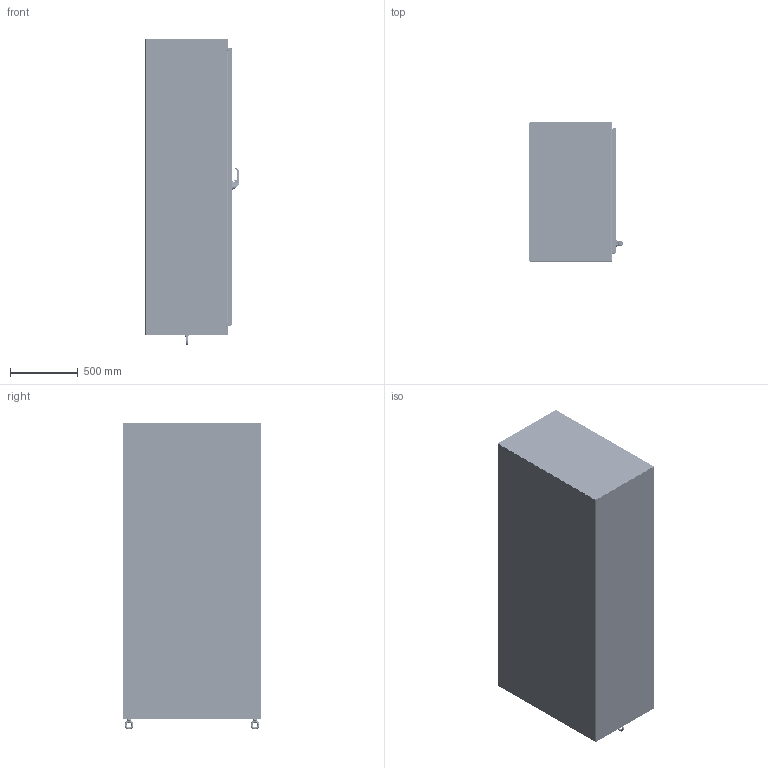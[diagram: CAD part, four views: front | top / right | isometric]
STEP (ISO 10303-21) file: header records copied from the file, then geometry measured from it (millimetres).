
FILE_DESCRIPTION((''),'2;1');
FILE_NAME('MODEL-461_ASM','2026-03-12T10:42:57',('joshi'),('SAGINAW CONTROL & ENGINEERING'),'CREO PARAMETRIC BY PTC INC, 2021284','CREO PARAMETRIC BY PTC INC, 2021284','');
FILE_SCHEMA(('AUTOMOTIVE_DESIGN { 1 0 10303 214 1 1 1 1 }'));
Length unit declared in the file: inch
Products named in the file (67): MODEL-461-L-SD; MODEL-461-TP; MODEL-461-R-SD; MODEL-461-BTM; MODEL-461-DR; 100837; 111267; 100882; 100953_SCREW_MTG; 100953_PADLOCK_CATCH; 100953_SCREW_LARGE; 100953_INSERT_SHAFT; 100953_INSERT_PCH; 100953_GASKET; 100953_O-RING; 100953_BASE; 100953_SPRING; 100953_HANDLE; 100953_CAM_SHAFT; 100953_HANDLE_ASM; 100953_CAM_ADAPTER; 100953_EARTH_NUT; 100953_FLANGE_NUT; 100953_CAM_NUT; 100953_CP_INSERT; 100953_SPRING_CAM; 100953_TORSION_SPRING; 100953_SCREW_INSERT; 100953_ASM; 102237; 100030; 102237_ASM; MODEL-461-ROD-UPR; 128146; 128145; 128144; 102482; MODEL-461-ROD-UPR_ASM; 128143; 112504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
Assembly tree (131 placements, depth 5):
  MODEL-461_ASM
    MODEL-461-L-SD
    MODEL-461-TP
    MODEL-461-R-SD
    MODEL-461-BTM
    MODEL-461-DOOR-ASSY_ASM
      MODEL-461-DR
      100837  x7
      111267
      100882  x12
      100953_ASM
        100953_SCREW_MTG
        100953_PADLOCK_CATCH
        100953_SCREW_LARGE  x2
        100953_INSERT_SHAFT
        100953_INSERT_PCH
        100953_GASKET
        100953_O-RING
        100953_BASE
        100953_SPRING
        100953_HANDLE_ASM
          100953_HANDLE
          100953_CAM_SHAFT
        100953_CAM_ADAPTER
        100953_EARTH_NUT
        100953_FLANGE_NUT
        100953_CAM_NUT
        100953_CP_INSERT
        100953_SPRING_CAM
        100953_TORSION_SPRING
        100953_SCREW_INSERT
      102237_ASM
        102237
        100030  x2
      MODEL-461-ROD-UPR_ASM
        MODEL-461-ROD-UPR
        128146
        128145
        128144
        102482  x2
      128143  x2
      112504  x2
      MODEL-461-ROD-LWR_ASM
        MODEL-461-ROD-LWR
        128146
        128145
        128144
        102482  x2
      MODEL-461-PR-GSKT
      128258_ASM  x4
        128258
      126395  x4
      102483  x4
      101383_ASM  x4
        101383
        101383-STUD
      101221  x4
    MODEL-461-BCK
    100837  x4
    103357
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Bounding box: 687.67 x 1022.35 x 2259.2 mm (x, y, z)
Volume: 30527299.8 mm3; surface area: 22134100 mm2
Topology: 135 solids, 135 shells, 12340 faces, 31418 edges, 19342 vertices
Faces by surface type: plane 4164, cylinder 3166, bspline 3010, torus 940, cone 700, sphere 330, extrusion 30
Entity records: 357940 total; most frequent: CARTESIAN_POINT 150262, ORIENTED_EDGE 32266, DIRECTION 28986, PRESENTATION_STYLE_ASSIGNMENT 16167, STYLED_ITEM 16162, EDGE_CURVE 16133, CURVE_STYLE 16085, AXIS2_PLACEMENT_3D 10833
